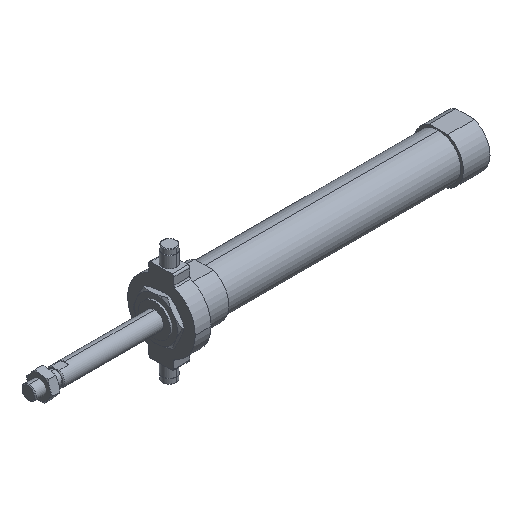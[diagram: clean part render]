
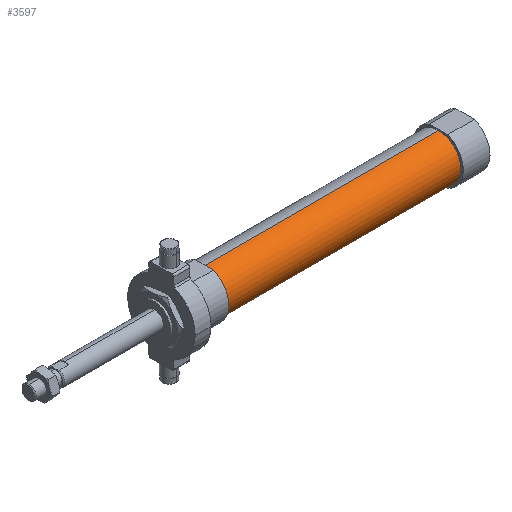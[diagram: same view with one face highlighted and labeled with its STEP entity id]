
A CAD part, isometric view. The second image highlights one B-rep face of the part: STEP entity #3597.
In plain terms, the highlighted cylindrical face has radius 12.5 mm (diameter 25 mm), a partial arc.
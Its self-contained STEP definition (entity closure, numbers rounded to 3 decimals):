
#11 = CARTESIAN_POINT ( 'NONE',  ( -6.469, 0., 0. ) ) ;
#250 = VECTOR ( 'NONE', #2140, 1000. ) ;
#377 = DIRECTION ( 'NONE',  ( -1., 0., 0. ) ) ;
#381 = CARTESIAN_POINT ( 'NONE',  ( 99., 0., -12.5 ) ) ;
#446 = AXIS2_PLACEMENT_3D ( 'NONE', #3759, #907, #1785 ) ;
#546 = ORIENTED_EDGE ( 'NONE', *, *, #1493, .T. ) ;
#589 = CARTESIAN_POINT ( 'NONE',  ( 231., 0., -12.5 ) ) ;
#907 = DIRECTION ( 'NONE',  ( -1., 0., 0. ) ) ;
#1000 = VERTEX_POINT ( 'NONE', #381 ) ;
#1029 = ORIENTED_EDGE ( 'NONE', *, *, #3997, .F. ) ;
#1304 = LINE ( 'NONE', #1812, #250 ) ;
#1381 = DIRECTION ( 'NONE',  ( -1., 0., 0. ) ) ;
#1493 = EDGE_CURVE ( 'NONE', #1795, #3268, #2334, .T. ) ;
#1588 = VERTEX_POINT ( 'NONE', #2146 ) ;
#1744 = ORIENTED_EDGE ( 'NONE', *, *, #3233, .F. ) ;
#1785 = DIRECTION ( 'NONE',  ( 0., 0., 1. ) ) ;
#1795 = VERTEX_POINT ( 'NONE', #589 ) ;
#1803 = CYLINDRICAL_SURFACE ( 'NONE', #1933, 12.5 ) ;
#1812 = CARTESIAN_POINT ( 'NONE',  ( -6.469, 0., -12.5 ) ) ;
#1898 = LINE ( 'NONE', #2698, #4063 ) ;
#1921 = DIRECTION ( 'NONE',  ( 0., 0., 1. ) ) ;
#1933 = AXIS2_PLACEMENT_3D ( 'NONE', #11, #377, #1921 ) ;
#2050 = CARTESIAN_POINT ( 'NONE',  ( 231., 0., 0. ) ) ;
#2102 = FACE_OUTER_BOUND ( 'NONE', #2588, .T. ) ;
#2140 = DIRECTION ( 'NONE',  ( -1., 0., 0. ) ) ;
#2146 = CARTESIAN_POINT ( 'NONE',  ( 99., 0., 12.5 ) ) ;
#2147 = ORIENTED_EDGE ( 'NONE', *, *, #2185, .T. ) ;
#2185 = EDGE_CURVE ( 'NONE', #3268, #1588, #1898, .T. ) ;
#2334 = CIRCLE ( 'NONE', #3298, 12.5 ) ;
#2362 = DIRECTION ( 'NONE',  ( -1., 0., 0. ) ) ;
#2588 = EDGE_LOOP ( 'NONE', ( #1744, #546, #2147, #1029 ) ) ;
#2698 = CARTESIAN_POINT ( 'NONE',  ( -6.469, 0., 12.5 ) ) ;
#3047 = DIRECTION ( 'NONE',  ( 0., 0., 1. ) ) ;
#3233 = EDGE_CURVE ( 'NONE', #1795, #1000, #1304, .T. ) ;
#3268 = VERTEX_POINT ( 'NONE', #3432 ) ;
#3298 = AXIS2_PLACEMENT_3D ( 'NONE', #2050, #2362, #3047 ) ;
#3432 = CARTESIAN_POINT ( 'NONE',  ( 231., 0., 12.5 ) ) ;
#3597 = ADVANCED_FACE ( 'NONE', ( #2102 ), #1803, .T. ) ;
#3759 = CARTESIAN_POINT ( 'NONE',  ( 99., 0., 0. ) ) ;
#3997 = EDGE_CURVE ( 'NONE', #1000, #1588, #4116, .T. ) ;
#4063 = VECTOR ( 'NONE', #1381, 1000. ) ;
#4116 = CIRCLE ( 'NONE', #446, 12.5 ) ;
